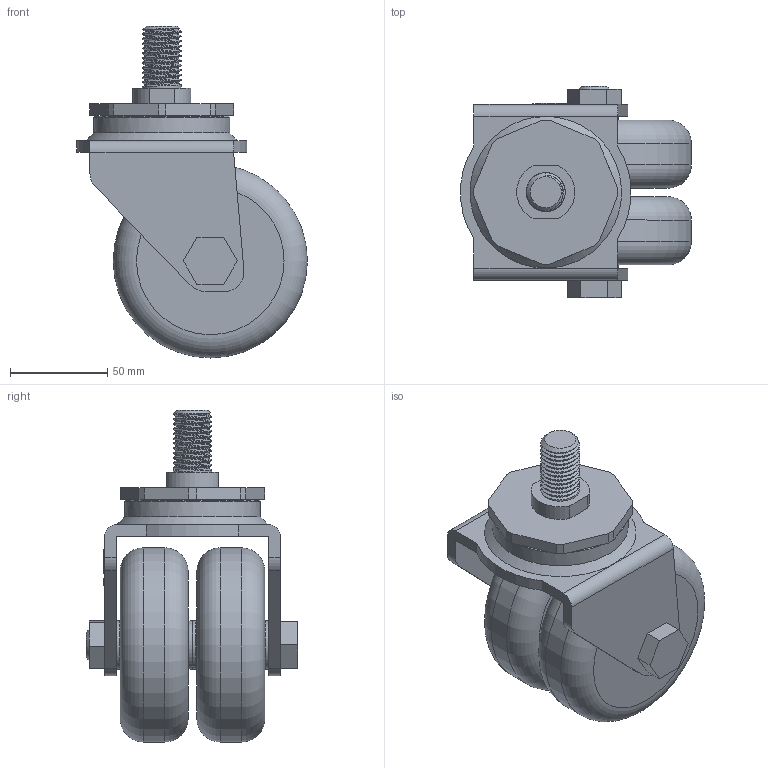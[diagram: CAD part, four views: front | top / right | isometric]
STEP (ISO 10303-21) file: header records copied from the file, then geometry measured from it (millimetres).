
FILE_DESCRIPTION(/* description */ (''),/* implementation_level */ '2;1');
FILE_NAME(/* name */ '90A04_4_R.stp',/* time_stamp */ '2022-08-29T13:22:06+08:00',/* author */ (''),/* organization */ (''),/* preprocessor_version */ 'ST-DEVELOPER v14',/* originating_system */ 'SIEMENS PLM Software NX 8.0',/* authorisation */ '');
FILE_SCHEMA (('AUTOMOTIVE_DESIGN { 1 0 10303 214 3 1 1 1 }'));
Length unit declared in the file: millimetre
Products named in the file (1): 90A04_4_R
Bounding box: 118.85 x 109 x 171 mm (x, y, z)
Volume: 695144.3 mm3; surface area: 111400.9 mm2
Topology: 1 solids, 8 shells, 370 faces, 941 edges, 623 vertices
Faces by surface type: plane 244, cylinder 69, bspline 28, cone 17, torus 7, revolution 5
Full cylindrical faces by diameter (mm): 12 x2, 16 x2, 16.3 x2, 17.142 x1, 20 x6, 20.1 x1, 22 x1, 24.608 x1, 25 x4, 28 x1, 40 x1, 60 x2, 62.5 x1, 70 x1, 100 x2
Entity records: 14455 total; most frequent: CARTESIAN_POINT 6397, ORIENTED_EDGE 1724, DIRECTION 1382, EDGE_CURVE 862, VERTEX_POINT 603, AXIS2_PLACEMENT_3D 501, EDGE_LOOP 481, LINE 375
